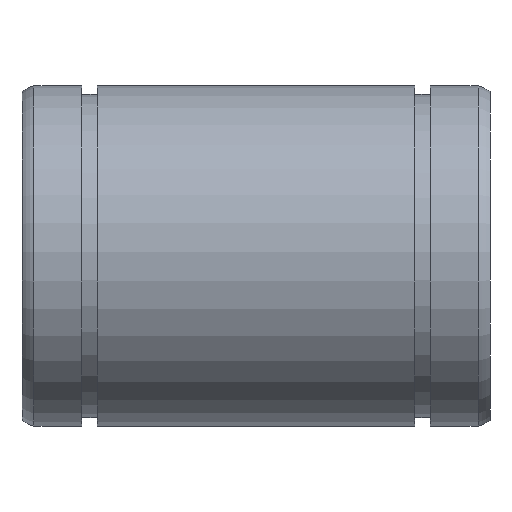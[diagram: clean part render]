
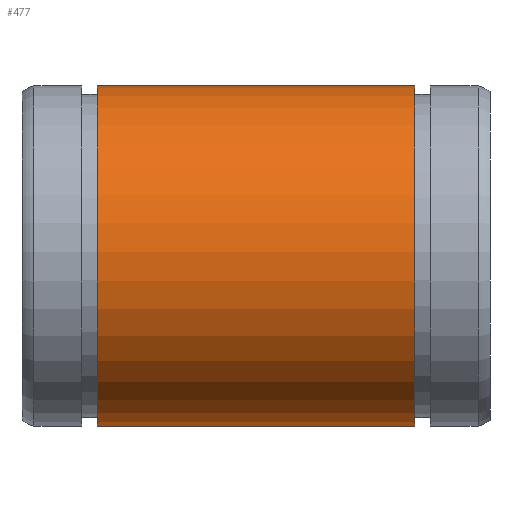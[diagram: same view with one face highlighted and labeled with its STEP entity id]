
A CAD part, front view. The second image highlights one B-rep face of the part: STEP entity #477.
In plain terms, the highlighted cylindrical face has radius 20 mm (diameter 40 mm), a partial arc.
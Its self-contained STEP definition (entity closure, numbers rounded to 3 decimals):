
#90=CARTESIAN_POINT('',(8.85,1.0,-19.975));
#91=VERTEX_POINT('',#90);
#98=CARTESIAN_POINT('',(46.15,1.0,-19.975));
#99=VERTEX_POINT('',#98);
#100=CARTESIAN_POINT('',(46.15,1.0,-19.975));
#101=DIRECTION('',(-1.0,0.0,0.0));
#102=VECTOR('',#101,37.3);
#103=LINE('',#100,#102);
#104=EDGE_CURVE('',#99,#91,#103,.T.);
#333=CARTESIAN_POINT('',(46.15,-1.0,-19.975));
#334=VERTEX_POINT('',#333);
#341=CARTESIAN_POINT('',(8.85,-1.0,-19.975));
#342=VERTEX_POINT('',#341);
#343=CARTESIAN_POINT('',(8.85,-1.0,-19.975));
#344=DIRECTION('',(1.0,0.0,0.0));
#345=VECTOR('',#344,37.3);
#346=LINE('',#343,#345);
#347=EDGE_CURVE('',#342,#334,#346,.T.);
#448=CARTESIAN_POINT('',(8.85,0.0,0.));
#449=DIRECTION('',(-1.0,0.0,0.0));
#450=DIRECTION('',(0.0,0.0,1.0));
#451=AXIS2_PLACEMENT_3D('',#448,#449,#450);
#452=CIRCLE('',#451,20.0);
#453=EDGE_CURVE('',#342,#91,#452,.T.);
#460=CARTESIAN_POINT('',(27.5,0.0,0.));
#461=DIRECTION('',(-1.0,0.0,0.0));
#462=DIRECTION('',(0.0,0.0,1.0));
#463=AXIS2_PLACEMENT_3D('',#460,#461,#462);
#464=CYLINDRICAL_SURFACE('',#463,20.);
#465=ORIENTED_EDGE('',*,*,#347,.T.);
#466=CARTESIAN_POINT('',(46.15,0.0,0.));
#467=DIRECTION('',(-1.0,0.0,0.0));
#468=DIRECTION('',(0.0,0.0,1.0));
#469=AXIS2_PLACEMENT_3D('',#466,#467,#468);
#470=CIRCLE('',#469,20.);
#471=EDGE_CURVE('',#334,#99,#470,.T.);
#472=ORIENTED_EDGE('',*,*,#471,.T.);
#473=ORIENTED_EDGE('',*,*,#104,.T.);
#474=ORIENTED_EDGE('',*,*,#453,.F.);
#475=EDGE_LOOP('',(#465,#472,#473,#474));
#476=FACE_OUTER_BOUND('',#475,.T.);
#477=ADVANCED_FACE('',(#476),#464,.T.);
